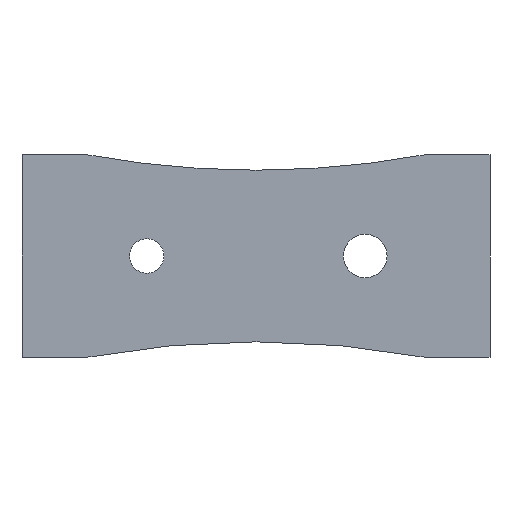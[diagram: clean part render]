
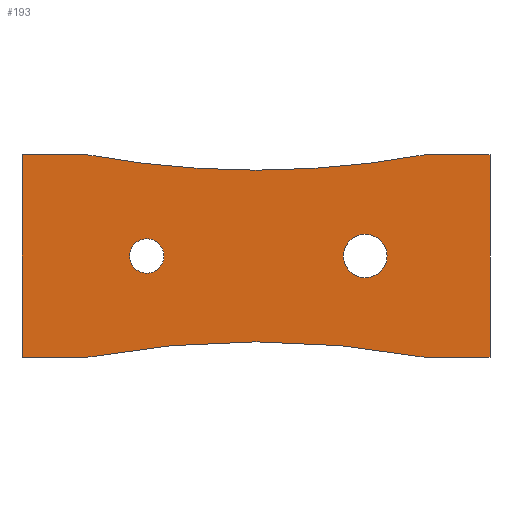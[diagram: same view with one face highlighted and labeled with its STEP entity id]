
A CAD part, left-side view. The second image highlights one B-rep face of the part: STEP entity #193.
In plain terms, the highlighted planar face has unit normal (-1, 0, 0).
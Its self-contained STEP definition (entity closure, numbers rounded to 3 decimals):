
#2 = VERTEX_POINT ( 'NONE', #243 ) ;
#15 = VERTEX_POINT ( 'NONE', #376 ) ;
#17 = EDGE_CURVE ( 'NONE', #15, #2, #375, .T. ) ;
#32 = EDGE_CURVE ( 'NONE', #158, #33, #583, .T. ) ;
#33 = VERTEX_POINT ( 'NONE', #579 ) ;
#39 = EDGE_CURVE ( 'NONE', #33, #165, #568, .T. ) ;
#47 = EDGE_CURVE ( 'NONE', #51, #48, #550, .T. ) ;
#48 = VERTEX_POINT ( 'NONE', #545 ) ;
#51 = VERTEX_POINT ( 'NONE', #544 ) ;
#67 = EDGE_CURVE ( 'NONE', #68, #69, #640, .T. ) ;
#68 = VERTEX_POINT ( 'NONE', #635 ) ;
#69 = VERTEX_POINT ( 'NONE', #634 ) ;
#125 = VERTEX_POINT ( 'NONE', #419 ) ;
#127 = EDGE_CURVE ( 'NONE', #125, #130, #418, .T. ) ;
#130 = VERTEX_POINT ( 'NONE', #407 ) ;
#149 = EDGE_CURVE ( 'NONE', #150, #69, #592, .T. ) ;
#150 = VERTEX_POINT ( 'NONE', #823 ) ;
#158 = VERTEX_POINT ( 'NONE', #775 ) ;
#164 = EDGE_CURVE ( 'NONE', #165, #166, #764, .T. ) ;
#165 = VERTEX_POINT ( 'NONE', #760 ) ;
#166 = VERTEX_POINT ( 'NONE', #759 ) ;
#189 = EDGE_CURVE ( 'NONE', #2, #150, #803, .T. ) ;
#193 = ADVANCED_FACE ( 'NONE', ( #799, #798, #797 ), #796, .F. ) ;
#194 = EDGE_LOOP ( 'NONE', ( #195, #311 ) ) ;
#195 = ORIENTED_EDGE ( 'NONE', *, *, #196, .T. ) ;
#196 = EDGE_CURVE ( 'NONE', #48, #51, #791, .T. ) ;
#197 = EDGE_LOOP ( 'NONE', ( #393, #275 ) ) ;
#233 = ORIENTED_EDGE ( 'NONE', *, *, #331, .T. ) ;
#243 = CARTESIAN_POINT ( 'NONE',  ( 0., 7.5, -3.25 ) ) ;
#275 = ORIENTED_EDGE ( 'NONE', *, *, #127, .T. ) ;
#297 = ORIENTED_EDGE ( 'NONE', *, *, #149, .F. ) ;
#298 = ORIENTED_EDGE ( 'NONE', *, *, #67, .T. ) ;
#299 = ORIENTED_EDGE ( 'NONE', *, *, #17, .F. ) ;
#300 = ORIENTED_EDGE ( 'NONE', *, *, #301, .T. ) ;
#301 = EDGE_CURVE ( 'NONE', #15, #166, #1023, .T. ) ;
#310 = ORIENTED_EDGE ( 'NONE', *, *, #189, .F. ) ;
#311 = ORIENTED_EDGE ( 'NONE', *, *, #47, .T. ) ;
#320 = EDGE_LOOP ( 'NONE', ( #321, #233, #298, #297, #310, #299, #300, #356, #357 ) ) ;
#321 = ORIENTED_EDGE ( 'NONE', *, *, #32, .F. ) ;
#331 = EDGE_CURVE ( 'NONE', #158, #68, #967, .T. ) ;
#356 = ORIENTED_EDGE ( 'NONE', *, *, #164, .F. ) ;
#357 = ORIENTED_EDGE ( 'NONE', *, *, #39, .F. ) ;
#372 = DIRECTION ( 'NONE',  ( 0., 1., 0. ) ) ;
#373 = VECTOR ( 'NONE', #372, 1000. ) ;
#374 = CARTESIAN_POINT ( 'NONE',  ( 0., 7.5, -3.25 ) ) ;
#375 = LINE ( 'NONE', #374, #373 ) ;
#376 = CARTESIAN_POINT ( 'NONE',  ( 0., 5.45, -3.25 ) ) ;
#393 = ORIENTED_EDGE ( 'NONE', *, *, #394, .T. ) ;
#394 = EDGE_CURVE ( 'NONE', #130, #125, #868, .T. ) ;
#407 = CARTESIAN_POINT ( 'NONE',  ( 0., 3.5, -0.55 ) ) ;
#414 = DIRECTION ( 'NONE',  ( 0., 0., -1. ) ) ;
#415 = DIRECTION ( 'NONE',  ( 1., 0., 0. ) ) ;
#416 = CARTESIAN_POINT ( 'NONE',  ( 0., 3.5, 0. ) ) ;
#417 = AXIS2_PLACEMENT_3D ( 'NONE', #416, #415, #414 ) ;
#418 = CIRCLE ( 'NONE', #417, 0.55 ) ;
#419 = CARTESIAN_POINT ( 'NONE',  ( 0., 3.5, 0.55 ) ) ;
#544 = CARTESIAN_POINT ( 'NONE',  ( 0., -3.5, 0.7 ) ) ;
#545 = CARTESIAN_POINT ( 'NONE',  ( 0., -3.5, -0.7 ) ) ;
#546 = DIRECTION ( 'NONE',  ( 0., 0., -1. ) ) ;
#547 = DIRECTION ( 'NONE',  ( 1., 0., 0. ) ) ;
#548 = CARTESIAN_POINT ( 'NONE',  ( 0., -3.5, 0. ) ) ;
#549 = AXIS2_PLACEMENT_3D ( 'NONE', #548, #547, #546 ) ;
#550 = CIRCLE ( 'NONE', #549, 0.7 ) ;
#565 = DIRECTION ( 'NONE',  ( 0., 0., -1. ) ) ;
#566 = VECTOR ( 'NONE', #565, 1000. ) ;
#567 = CARTESIAN_POINT ( 'NONE',  ( 0., -7.5, 3.25 ) ) ;
#568 = LINE ( 'NONE', #567, #566 ) ;
#579 = CARTESIAN_POINT ( 'NONE',  ( 0., -7.5, 3.25 ) ) ;
#580 = DIRECTION ( 'NONE',  ( 0., -1., 0. ) ) ;
#581 = VECTOR ( 'NONE', #580, 1000. ) ;
#582 = CARTESIAN_POINT ( 'NONE',  ( 0., 7.5, 3.25 ) ) ;
#583 = LINE ( 'NONE', #582, #581 ) ;
#589 = DIRECTION ( 'NONE',  ( 0., -1., 0. ) ) ;
#590 = VECTOR ( 'NONE', #589, 1000. ) ;
#591 = CARTESIAN_POINT ( 'NONE',  ( 0., 7.5, 3.25 ) ) ;
#592 = LINE ( 'NONE', #591, #590 ) ;
#634 = CARTESIAN_POINT ( 'NONE',  ( 0., 5.45, 3.25 ) ) ;
#635 = CARTESIAN_POINT ( 'NONE',  ( 0., 0., 2.751 ) ) ;
#636 = DIRECTION ( 'NONE',  ( 0., 0., -1. ) ) ;
#637 = DIRECTION ( 'NONE',  ( 1., 0., 0. ) ) ;
#638 = CARTESIAN_POINT ( 'NONE',  ( 0., 0., 32.751 ) ) ;
#639 = AXIS2_PLACEMENT_3D ( 'NONE', #638, #637, #636 ) ;
#640 = CIRCLE ( 'NONE', #639, 30. ) ;
#759 = CARTESIAN_POINT ( 'NONE',  ( 0., -5.45, -3.25 ) ) ;
#760 = CARTESIAN_POINT ( 'NONE',  ( 0., -7.5, -3.25 ) ) ;
#761 = DIRECTION ( 'NONE',  ( 0., 1., 0. ) ) ;
#762 = VECTOR ( 'NONE', #761, 1000. ) ;
#763 = CARTESIAN_POINT ( 'NONE',  ( 0., 7.5, -3.25 ) ) ;
#764 = LINE ( 'NONE', #763, #762 ) ;
#775 = CARTESIAN_POINT ( 'NONE',  ( 0., -5.45, 3.25 ) ) ;
#787 = DIRECTION ( 'NONE',  ( 0., 0., -1. ) ) ;
#788 = DIRECTION ( 'NONE',  ( 1., 0., 0. ) ) ;
#789 = CARTESIAN_POINT ( 'NONE',  ( 0., -3.5, 0. ) ) ;
#790 = AXIS2_PLACEMENT_3D ( 'NONE', #789, #788, #787 ) ;
#791 = CIRCLE ( 'NONE', #790, 0.7 ) ;
#792 = DIRECTION ( 'NONE',  ( 0., 0., -1. ) ) ;
#793 = DIRECTION ( 'NONE',  ( 1., 0., 0. ) ) ;
#794 = CARTESIAN_POINT ( 'NONE',  ( 0., -7.5, 3.25 ) ) ;
#795 = AXIS2_PLACEMENT_3D ( 'NONE', #794, #793, #792 ) ;
#796 = PLANE ( 'NONE',  #795 ) ;
#797 = FACE_OUTER_BOUND ( 'NONE', #320, .T. ) ;
#798 = FACE_BOUND ( 'NONE', #197, .T. ) ;
#799 = FACE_BOUND ( 'NONE', #194, .T. ) ;
#800 = DIRECTION ( 'NONE',  ( 0., 0., 1. ) ) ;
#801 = VECTOR ( 'NONE', #800, 1000. ) ;
#802 = CARTESIAN_POINT ( 'NONE',  ( 0., 7.5, 3.25 ) ) ;
#803 = LINE ( 'NONE', #802, #801 ) ;
#823 = CARTESIAN_POINT ( 'NONE',  ( 0., 7.5, 3.25 ) ) ;
#864 = DIRECTION ( 'NONE',  ( 0., 0., -1. ) ) ;
#865 = DIRECTION ( 'NONE',  ( 1., 0., 0. ) ) ;
#866 = CARTESIAN_POINT ( 'NONE',  ( 0., 3.5, 0. ) ) ;
#867 = AXIS2_PLACEMENT_3D ( 'NONE', #866, #865, #864 ) ;
#868 = CIRCLE ( 'NONE', #867, 0.55 ) ;
#908 = CARTESIAN_POINT ( 'NONE',  ( 0., 0., -32.751 ) ) ;
#963 = DIRECTION ( 'NONE',  ( 0., 0., -1. ) ) ;
#964 = DIRECTION ( 'NONE',  ( 1., 0., 0. ) ) ;
#965 = CARTESIAN_POINT ( 'NONE',  ( 0., 0., 32.751 ) ) ;
#966 = AXIS2_PLACEMENT_3D ( 'NONE', #965, #964, #963 ) ;
#967 = CIRCLE ( 'NONE', #966, 30. ) ;
#1020 = DIRECTION ( 'NONE',  ( 0., 0., -1. ) ) ;
#1021 = DIRECTION ( 'NONE',  ( 1., 0., 0. ) ) ;
#1022 = AXIS2_PLACEMENT_3D ( 'NONE', #908, #1021, #1020 ) ;
#1023 = CIRCLE ( 'NONE', #1022, 30. ) ;
